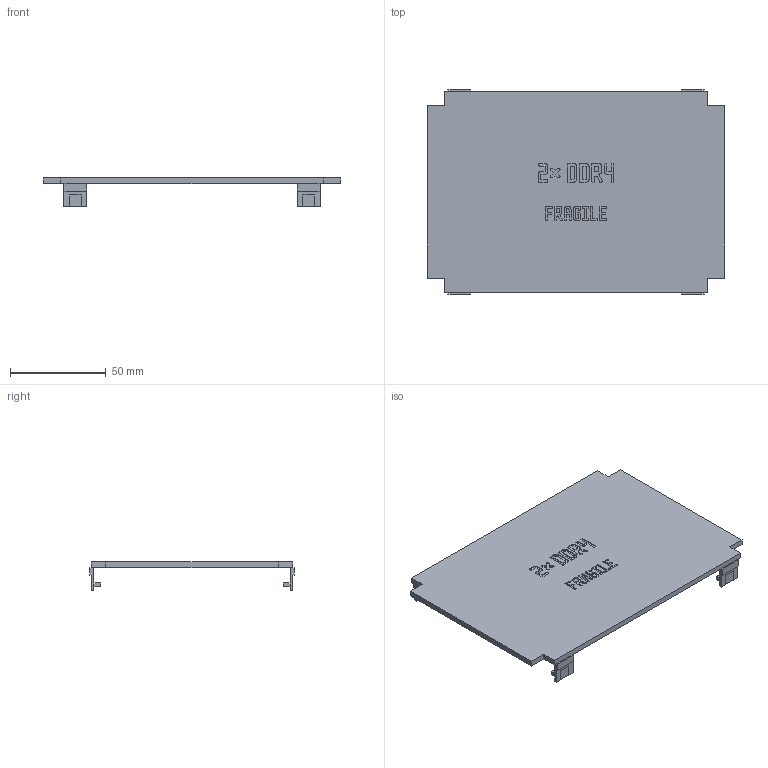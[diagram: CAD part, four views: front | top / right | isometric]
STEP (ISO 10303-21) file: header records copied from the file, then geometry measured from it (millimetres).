
FILE_DESCRIPTION(('Open CASCADE Model'),'2;1');
FILE_NAME('Open CASCADE Shape Model','2026-11-03T16:15:23',('Author'),( 'Open CASCADE'),'Open CASCADE STEP processor 8.0','build123d', 'Unknown');
FILE_SCHEMA(('AUTOMOTIVE_DESIGN { 1 0 10303 214 1 1 1 1 }'));
Products named in the file (1): SOLID
Bounding box: 155.6 x 107 x 14.88 mm (x, y, z)
Volume: 49555.5 mm3; surface area: 35783.4 mm2
Topology: 1 solids, 1 shells, 1250 faces, 3670 edges, 2444 vertices
Faces by surface type: plane 1250
Entity records: 85900 total; most frequent: CARTESIAN_POINT 17155, DIRECTION 11062, LINE 8560, VECTOR 8560, ORIENTED_EDGE 7340, PCURVE 7340, DEFINITIONAL_REPRESENTATION 7340, EDGE_CURVE 3670
